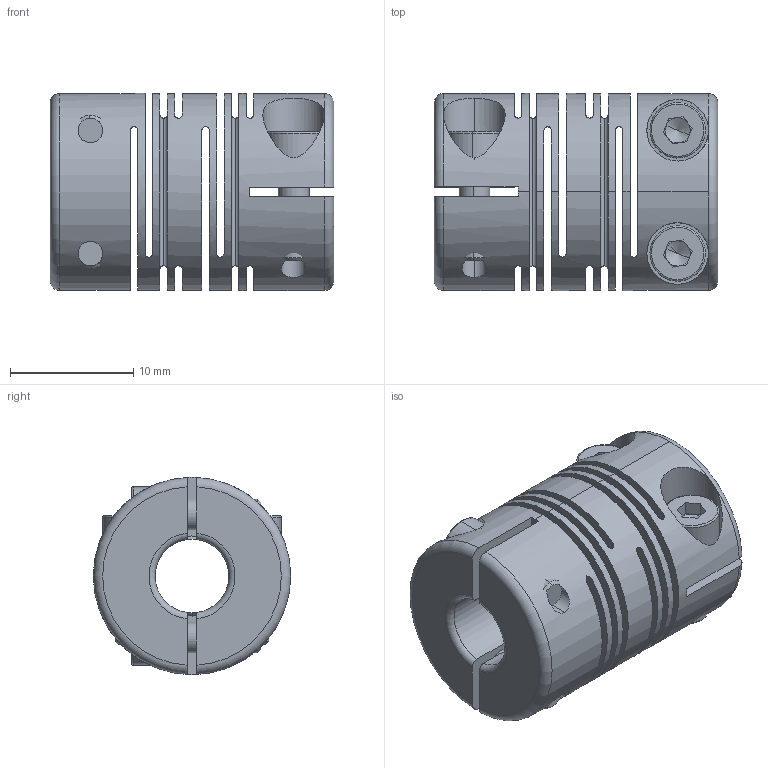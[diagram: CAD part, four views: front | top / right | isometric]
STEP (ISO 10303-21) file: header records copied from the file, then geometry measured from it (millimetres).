
FILE_DESCRIPTION (( 'STEP AP203' ), '1' );
FILE_NAME ('FACML16-6x6.STEP', '2014-01-06T03:05:36', ( '123' ), ( '' ), 'SwSTEP 2.0', 'SolidWorks 2013', '' );
FILE_SCHEMA (( 'CONFIG_CONTROL_DESIGN' ));
Length unit declared in the file: millimetre
Products named in the file (1): FACML16-6x6
Bounding box: 23 x 16 x 16 mm (x, y, z)
Surface area: 4847.4 mm2 (no closed solid volume)
Topology: 0 solids, 9 shells, 182 faces, 542 edges, 352 vertices
Faces by surface type: plane 82, cylinder 66, torus 18, cone 16
Entity records: 6762 total; most frequent: CARTESIAN_POINT 1787, DIRECTION 1058, ORIENTED_EDGE 961, EDGE_CURVE 534, AXIS2_PLACEMENT_3D 407, VERTEX_POINT 352, LINE 244, VECTOR 244
